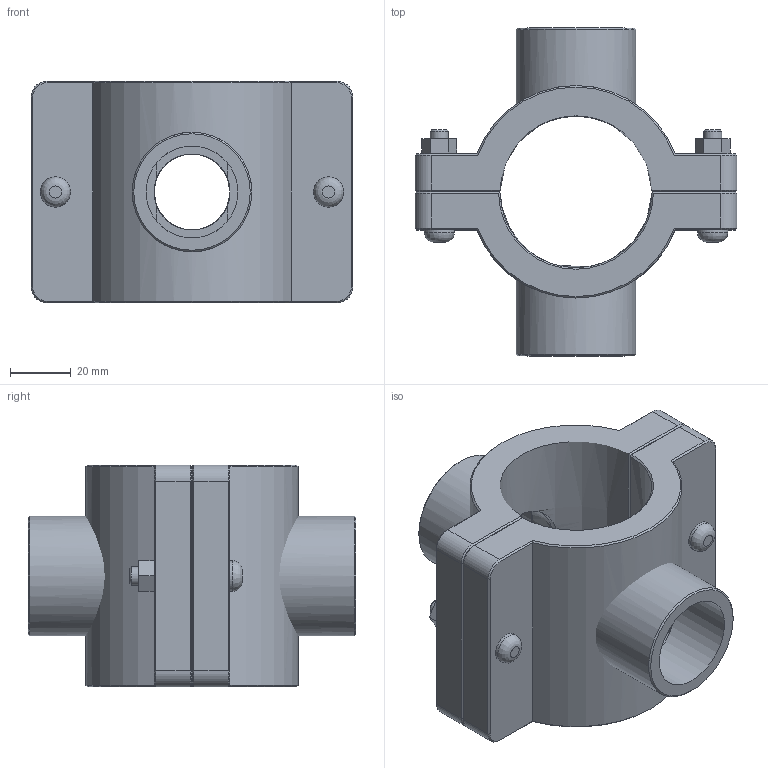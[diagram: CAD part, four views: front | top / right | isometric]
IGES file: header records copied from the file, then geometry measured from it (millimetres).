
Global section: file name: 161760050010_161860050010.ipt; native system: Autodesk Inventor 2015; preprocessor: unknown; author: KIM; date: 20170618.093657; units: millimetre
Bounding box: 106 x 108 x 73 mm (x, y, z)
Volume: 229569.2 mm3; surface area: 62098.8 mm2
Topology: 3 solids, 3 shells, 131 faces, 307 edges, 192 vertices
Faces by surface type: plane 70, cone 24, revolution 19, cylinder 18
Full cylindrical faces by diameter (mm): 6 x2, 10 x4, 39.378 x2
